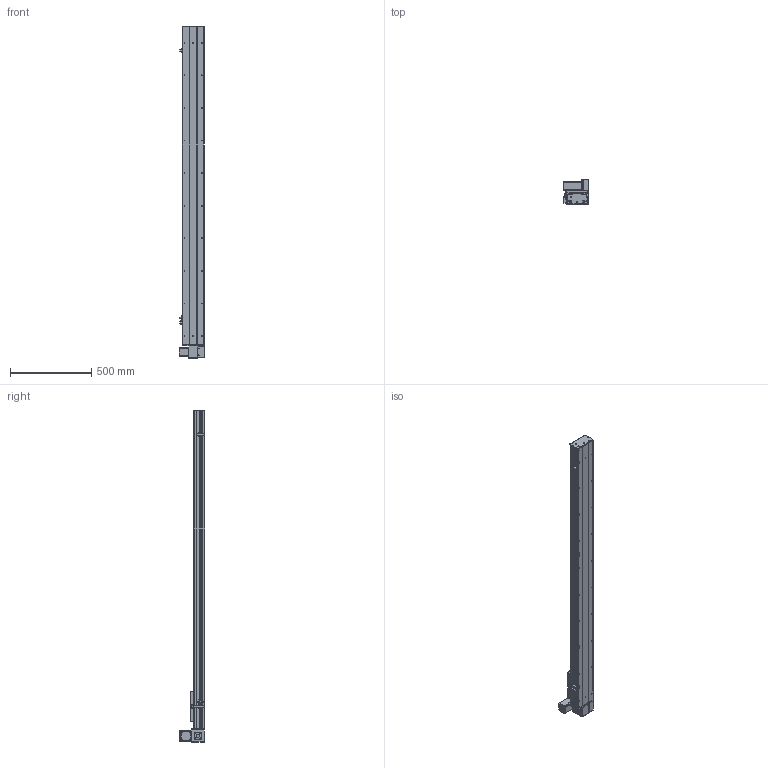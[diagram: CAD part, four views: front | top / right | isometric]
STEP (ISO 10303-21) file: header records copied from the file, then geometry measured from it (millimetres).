
FILE_DESCRIPTION (( 'STEP AP203' ), '1' );
FILE_NAME ('Y135CB-D90-S1650-UL-P400W.STEP', '2020-02-18T07:40:29', ( '微软用户' ), ( '微软中国' ), 'SwSTEP 2.0', 'SolidWorks 2017', '' );
FILE_SCHEMA (( 'CONFIG_CONTROL_DESIGN' ));
Length unit declared in the file: millimetre
Products named in the file (18): 0B-萇儂楊擘啣; 00B-俋欶BM--; san松下电机400不带刹车----; Y10B--々湍喘謫眊--666; C-詩湍揤踡え-陔; 5CB --掛极耜裔啣-; Y135CB-D90-S1650-UL-P400W; 135CB--詩湍-CE; Y135CB-耜裔; Y100-135俋离換覜ん--; 135CB---遴掛极.-; Y135C-陔俋离換覜結え-; 35CB---喘謫眊楊擘啣; 5C--俋欶; 0B-埴倛裔啣; C-雄赽釱--; 0B-源倛裔啣; Y10B-耜蚾蟀諉啣----
Assembly tree (21 placements, depth 2):
  Y135CB-D90-S1650-UL-P400W
    Y135CB-耜裔
    135CB---遴掛极.-
    35CB---喘謫眊楊擘啣
    0B-埴倛裔啣
    0B-源倛裔啣
    0B-萇儂楊擘啣
    san松下电机400不带刹车----
    5CB --掛极耜裔啣-  x2
    C-詩湍揤踡え-陔  x2
    135CB--詩湍-CE
    Y100-135俋离換覜ん--  x3
    Y135C-陔俋离換覜結え-
    5C--俋欶
    C-雄赽釱--
    Y10B-耜蚾蟀諉啣----
    00B-俋欶BM--
    Y10B--々湍喘謫眊--666
Bounding box: 157 x 158.7 x 2038 mm (x, y, z)
Volume: 6074501.9 mm3; surface area: 2393833.5 mm2
Topology: 21 solids, 21 shells, 957 faces, 2581 edges, 1710 vertices
Faces by surface type: cylinder 485, plane 456, cone 16
Entity records: 29955 total; most frequent: DIRECTION 4977, CARTESIAN_POINT 4944, ORIENTED_EDGE 4638, EDGE_CURVE 2319, AXIS2_PLACEMENT_3D 1819, VERTEX_POINT 1538, LINE 1339, VECTOR 1339
